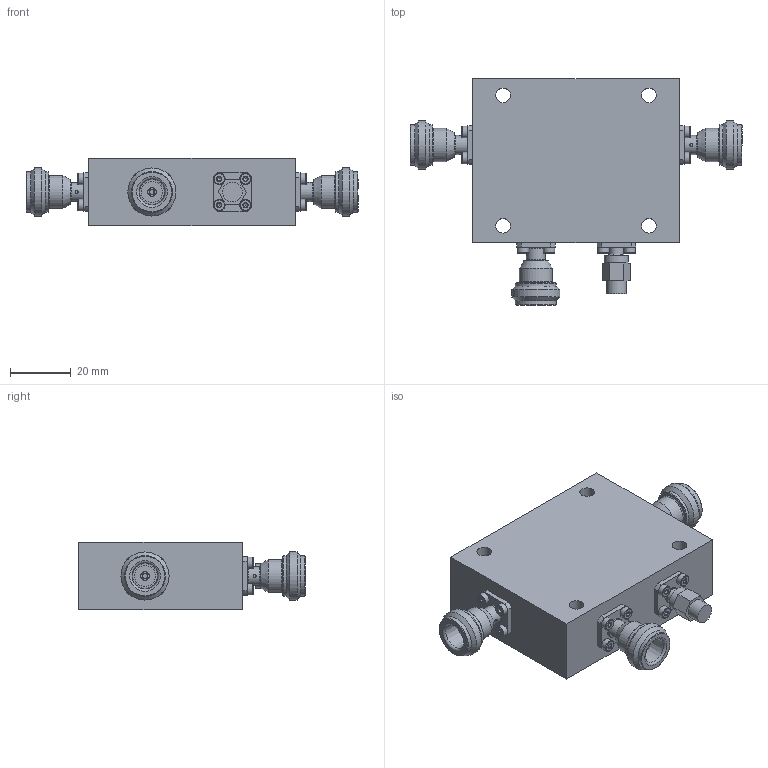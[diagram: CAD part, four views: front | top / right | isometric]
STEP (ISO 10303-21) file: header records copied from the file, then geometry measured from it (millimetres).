
FILE_DESCRIPTION(/* description */ ('Unknown'),/* implementation_level */ '2;1');
FILE_NAME(/* name */ 'DETI_MICROWAVE_HIGH_POWER_UNIDIRECTIONAL_COUPLER_011086_STEP',/* time_stamp */ '2021-06-10T16:08:16+02:00',/* author */ ('ALG'),/* organization */ ('DETI'),/* preprocessor_version */ 'ST-DEVELOPER v16.7',/* originating_system */ 'Solid Edge',/* authorisation */ 'Unknown');
FILE_SCHEMA (('AUTOMOTIVE_DESIGN {1 0 10303 214 3 1 1}'));
Length unit declared in the file: millimetre
Products named in the file (1): CD-1-2000-4000-30-200-NF-NF-NF2
Bounding box: 109.4 x 74.7 x 22.2 mm (x, y, z)
Volume: 85700.3 mm3; surface area: 20833.2 mm2
Topology: 1 solids, 23 shells, 574 faces, 1317 edges, 843 vertices
Faces by surface type: plane 272, cone 126, cylinder 116, torus 60
Full cylindrical faces by diameter (mm): 0.8 x2, 0.95 x1, 1 x6, 1.275 x2, 2 x16, 2.6 x4, 2.9 x12, 3.8 x16, 4.06 x4, 4.1 x3, 4.61 x1, 4.8 x4, 4.9 x1, 6.26 x1, 6.3 x3, 6.5 x1, 6.8 x1, 7 x3, 8 x1, 10.9 x3, 13.5 x6, 15.84 x3
Entity records: 18533 total; most frequent: CARTESIAN_POINT 3008, DIRECTION 2414, ORIENTED_EDGE 1996, AXIS2_PLACEMENT_3D 1046, EDGE_CURVE 998, FACE_BOUND 919, EDGE_LOOP 902, VERTEX_POINT 767
